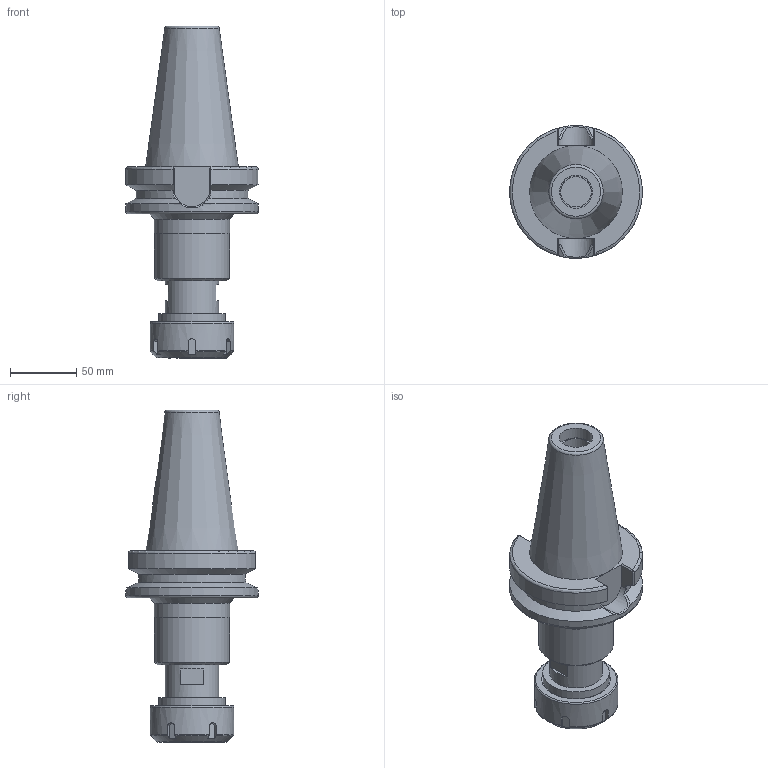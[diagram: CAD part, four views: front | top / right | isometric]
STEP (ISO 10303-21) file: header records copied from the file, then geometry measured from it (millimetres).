
FILE_DESCRIPTION(/* description */ (''),/* implementation_level */ '2;1');
FILE_NAME(/* name */ 'Z:\Проектный отдел\Алена\Цанговый патрон плавающий для резьбонарезания BT50-VER40-130\Цанговый патрон плавающий для резьбонарезания BT50-VER40-130.stp',/* time_stamp */ '2024-03-21T10:55:26+03:00',/* author */ ('User'),/* organization */ (''),/* preprocessor_version */ 'ST-DEVELOPER v18',/* originating_system */ 'Autodesk Inventor 2020',/* authorisation */ '');
FILE_SCHEMA (('AUTOMOTIVE_DESIGN { 1 0 10303 214 3 1 1 }'));
Length unit declared in the file: millimetre
Products named in the file (3): Цанговый патрон 
плавающий для резьбонарезания 
BT50-VER40-130; Крышка; Цанговый патрон 
плавающий для резьбонарезания 
BT50-VER40-130_1
Assembly tree (2 placements, depth 2):
  Цанговый патрон 
плавающий для резьбонарезания 
BT50-VER40-130
    Крышка
    Цанговый патрон 
плавающий для резьбонарезания 
BT50-VER40-130_1
Bounding box: 100 x 100 x 250 mm (x, y, z)
Volume: 638248.7 mm3; surface area: 87888 mm2
Topology: 2 solids, 2 shells, 130 faces, 372 edges, 256 vertices
Faces by surface type: plane 61, cylinder 22, bspline 21, torus 14, cone 12
Full cylindrical faces by diameter (mm): 23 x1, 25 x1, 29 x1, 40 x1, 49.5 x1, 50 x1, 56.5 x1, 56.7 x1, 63 x1, 100 x1
Entity records: 5345 total; most frequent: CARTESIAN_POINT 1994, ORIENTED_EDGE 744, DIRECTION 597, EDGE_CURVE 372, VERTEX_POINT 256, AXIS2_PLACEMENT_3D 233, EDGE_LOOP 142, LINE 131
